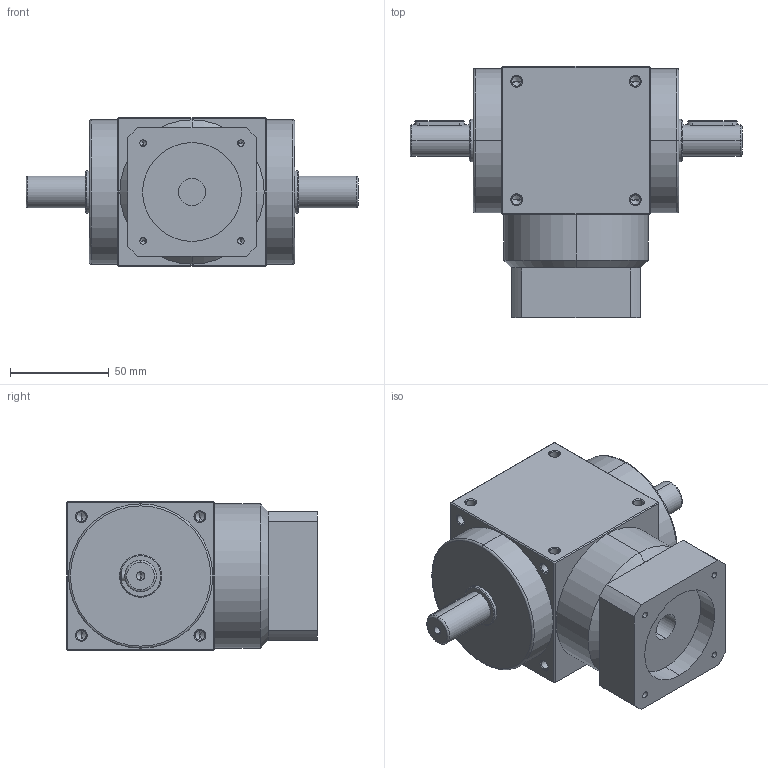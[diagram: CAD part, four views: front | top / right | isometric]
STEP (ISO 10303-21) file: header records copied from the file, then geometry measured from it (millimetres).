
FILE_DESCRIPTION (( 'STEP AP214' ), '1' );
FILE_NAME ('AT075-FL-001--14-50-70-M4.STEP', '2020-08-21T12:03:16', ( 'User' ), ( 'Far123' ), 'SwSTEP 2.0', 'SolidWorks 2015', '' );
FILE_SCHEMA (( 'AUTOMOTIVE_DESIGN' ));
Length unit declared in the file: millimetre
Products named in the file (1): AT075-FL-001--14-50-70-M4
Bounding box: 168 x 127 x 75 mm (x, y, z)
Volume: 743206.6 mm3; surface area: 63828.9 mm2
Topology: 1 solids, 1 shells, 281 faces, 692 edges, 374 vertices
Faces by surface type: cylinder 118, cone 102, plane 53, torus 8
Entity records: 8940 total; most frequent: CARTESIAN_POINT 1756, DIRECTION 1308, ORIENTED_EDGE 1280, EDGE_CURVE 640, AXIS2_PLACEMENT_3D 502, VERTEX_POINT 374, EDGE_LOOP 318, LINE 304
